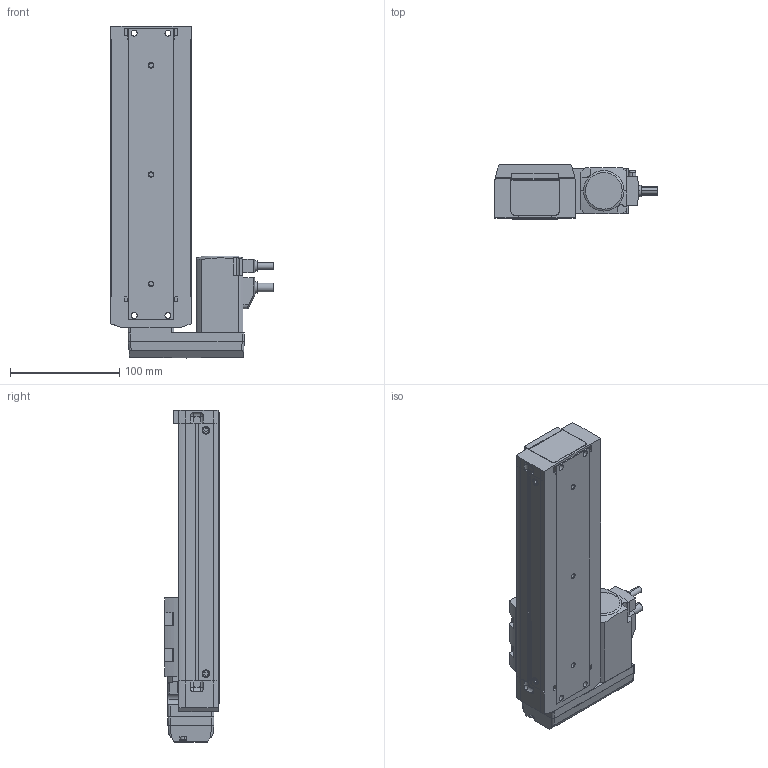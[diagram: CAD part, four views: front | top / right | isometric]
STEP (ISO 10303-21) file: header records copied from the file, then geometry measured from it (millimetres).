
FILE_DESCRIPTION (( 'STEP AP203' ), '1' );
FILE_NAME ('EZSM4LD015AZAK.step', '2015-06-30T18:15:15', ( 'om' ), ( 'Hewlett-Packard Company' ), 'SwSTEP 2.0', 'SolidWorks 2014', '' );
FILE_SCHEMA (( 'CONFIG_CONTROL_DESIGN' ));
Length unit declared in the file: millimetre
Products named in the file (4): EZSM4LD015AZAK_Motor; EZSM4LD015AZAK_BASE; EZSM4LD015AZAK_Table; EZSM4LD015AZAK
Assembly tree (3 placements, depth 2):
  EZSM4LD015AZAK
    EZSM4LD015AZAK_Motor
    EZSM4LD015AZAK_BASE
    EZSM4LD015AZAK_Table
Bounding box: 149 x 50 x 303.9 mm (x, y, z)
Volume: 1028520.1 mm3; surface area: 128306.1 mm2
Topology: 3 solids, 5 shells, 863 faces, 2189 edges, 1405 vertices
Faces by surface type: plane 546, cylinder 243, cone 52, torus 19, sphere 2, bspline 1
Entity records: 26589 total; most frequent: CARTESIAN_POINT 5067, DIRECTION 4398, ORIENTED_EDGE 4362, EDGE_CURVE 2181, LINE 1562, VECTOR 1562, AXIS2_PLACEMENT_3D 1418, VERTEX_POINT 1405
